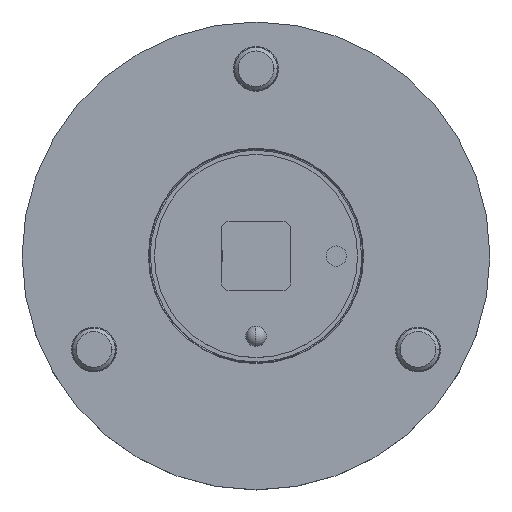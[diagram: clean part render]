
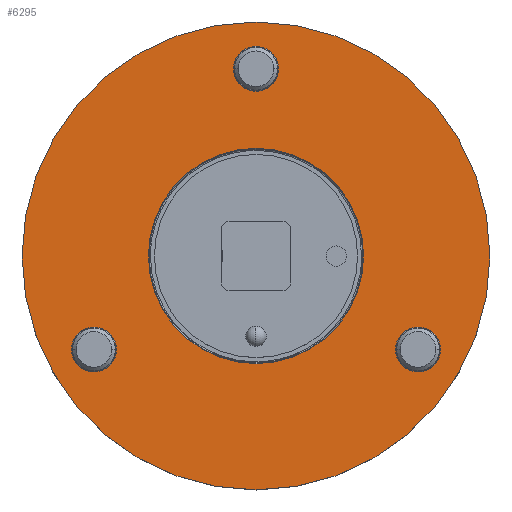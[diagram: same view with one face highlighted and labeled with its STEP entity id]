
A CAD part, top view. The second image highlights one B-rep face of the part: STEP entity #6295.
In plain terms, the highlighted planar face has unit normal (0, 0, 1).
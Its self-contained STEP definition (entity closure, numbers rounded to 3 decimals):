
#32 = CARTESIAN_POINT ( 'NONE',  ( 47.367, -15.702, 109.75 ) ) ;
#178 = AXIS2_PLACEMENT_3D ( 'NONE', #7870, #8720, #7157 ) ;
#213 = EDGE_CURVE ( 'NONE', #4894, #7926, #1616, .T. ) ;
#326 = EDGE_LOOP ( 'NONE', ( #8084, #3250 ) ) ;
#356 = CARTESIAN_POINT ( 'NONE',  ( -13.255, -15.702, 109.75 ) ) ;
#392 = AXIS2_PLACEMENT_3D ( 'NONE', #6689, #8677, #5197 ) ;
#733 = DIRECTION ( 'NONE',  ( 0., 0., -1. ) ) ;
#887 = ORIENTED_EDGE ( 'NONE', *, *, #6920, .F. ) ;
#1011 = CARTESIAN_POINT ( 'NONE',  ( 51.567, -15.702, 109.75 ) ) ;
#1145 = CARTESIAN_POINT ( 'NONE',  ( 43.167, -15.702, 109.75 ) ) ;
#1165 = FACE_BOUND ( 'NONE', #7253, .T. ) ;
#1270 = AXIS2_PLACEMENT_3D ( 'NONE', #4340, #6646, #7357 ) ;
#1410 = CARTESIAN_POINT ( 'NONE',  ( 12.856, 36.798, 109.75 ) ) ;
#1616 = CIRCLE ( 'NONE', #2383, 20.127 ) ;
#1856 = ORIENTED_EDGE ( 'NONE', *, *, #4296, .F. ) ;
#1860 = CARTESIAN_POINT ( 'NONE',  ( -17.455, -15.702, 109.75 ) ) ;
#1933 = CARTESIAN_POINT ( 'NONE',  ( 17.056, 45.548, 109.75 ) ) ;
#1975 = VERTEX_POINT ( 'NONE', #1860 ) ;
#2059 = EDGE_CURVE ( 'NONE', #7926, #4894, #6960, .T. ) ;
#2130 = ORIENTED_EDGE ( 'NONE', *, *, #6101, .T. ) ;
#2310 = AXIS2_PLACEMENT_3D ( 'NONE', #356, #8368, #4973 ) ;
#2383 = AXIS2_PLACEMENT_3D ( 'NONE', #3434, #7735, #4767 ) ;
#2391 = CARTESIAN_POINT ( 'NONE',  ( 37.183, 1.798, 109.75 ) ) ;
#2595 = CARTESIAN_POINT ( 'NONE',  ( 60.806, 1.798, 109.75 ) ) ;
#2638 = VERTEX_POINT ( 'NONE', #1410 ) ;
#2747 = CARTESIAN_POINT ( 'NONE',  ( 17.056, 1.798, 109.75 ) ) ;
#2932 = DIRECTION ( 'NONE',  ( 0., 0., -1. ) ) ;
#3047 = AXIS2_PLACEMENT_3D ( 'NONE', #2747, #3372, #5664 ) ;
#3234 = VERTEX_POINT ( 'NONE', #7924 ) ;
#3236 = CIRCLE ( 'NONE', #2310, 4.2 ) ;
#3250 = ORIENTED_EDGE ( 'NONE', *, *, #7811, .T. ) ;
#3292 = CIRCLE ( 'NONE', #6624, 4.2 ) ;
#3314 = PLANE ( 'NONE',  #3571 ) ;
#3372 = DIRECTION ( 'NONE',  ( 0., 0., -1. ) ) ;
#3434 = CARTESIAN_POINT ( 'NONE',  ( 17.056, 1.798, 109.75 ) ) ;
#3571 = AXIS2_PLACEMENT_3D ( 'NONE', #1933, #9127, #8467 ) ;
#3615 = ORIENTED_EDGE ( 'NONE', *, *, #8474, .T. ) ;
#3722 = CARTESIAN_POINT ( 'NONE',  ( -26.694, 1.798, 109.75 ) ) ;
#3752 = ORIENTED_EDGE ( 'NONE', *, *, #5429, .T. ) ;
#3774 = EDGE_LOOP ( 'NONE', ( #2130, #3752 ) ) ;
#3956 = CARTESIAN_POINT ( 'NONE',  ( 17.056, 1.798, 109.75 ) ) ;
#4189 = CIRCLE ( 'NONE', #392, 4.2 ) ;
#4234 = VERTEX_POINT ( 'NONE', #3722 ) ;
#4266 = CIRCLE ( 'NONE', #3047, 43.75 ) ;
#4296 = EDGE_CURVE ( 'NONE', #4234, #6208, #4625, .T. ) ;
#4340 = CARTESIAN_POINT ( 'NONE',  ( 17.056, 1.798, 109.75 ) ) ;
#4411 = VERTEX_POINT ( 'NONE', #1145 ) ;
#4430 = CIRCLE ( 'NONE', #6735, 4.2 ) ;
#4534 = DIRECTION ( 'NONE',  ( 0., 0., -1. ) ) ;
#4625 = CIRCLE ( 'NONE', #1270, 43.75 ) ;
#4767 = DIRECTION ( 'NONE',  ( 1., 0., 0. ) ) ;
#4894 = VERTEX_POINT ( 'NONE', #7326 ) ;
#4973 = DIRECTION ( 'NONE',  ( -1., 0., 0. ) ) ;
#5054 = EDGE_CURVE ( 'NONE', #4411, #7502, #7995, .T. ) ;
#5113 = EDGE_LOOP ( 'NONE', ( #5730, #8176 ) ) ;
#5197 = DIRECTION ( 'NONE',  ( -1., 0., 0. ) ) ;
#5339 = DIRECTION ( 'NONE',  ( 1., 0., 0. ) ) ;
#5428 = AXIS2_PLACEMENT_3D ( 'NONE', #3956, #6925, #5339 ) ;
#5429 = EDGE_CURVE ( 'NONE', #8679, #2638, #4189, .T. ) ;
#5508 = FACE_BOUND ( 'NONE', #326, .T. ) ;
#5647 = FACE_BOUND ( 'NONE', #3774, .T. ) ;
#5664 = DIRECTION ( 'NONE',  ( 1., 0., 0. ) ) ;
#5730 = ORIENTED_EDGE ( 'NONE', *, *, #2059, .F. ) ;
#5761 = CARTESIAN_POINT ( 'NONE',  ( 17.056, 36.798, 109.75 ) ) ;
#5853 = DIRECTION ( 'NONE',  ( -1., 0., 0. ) ) ;
#6101 = EDGE_CURVE ( 'NONE', #2638, #8679, #3292, .T. ) ;
#6208 = VERTEX_POINT ( 'NONE', #2595 ) ;
#6295 = ADVANCED_FACE ( 'NONE', ( #5647, #5508, #1165, #8369, #9267 ), #3314, .F. ) ;
#6624 = AXIS2_PLACEMENT_3D ( 'NONE', #5761, #733, #8752 ) ;
#6646 = DIRECTION ( 'NONE',  ( 0., 0., -1. ) ) ;
#6689 = CARTESIAN_POINT ( 'NONE',  ( 17.056, 36.798, 109.75 ) ) ;
#6735 = AXIS2_PLACEMENT_3D ( 'NONE', #7543, #4534, #6786 ) ;
#6786 = DIRECTION ( 'NONE',  ( -1., 0., 0. ) ) ;
#6920 = EDGE_CURVE ( 'NONE', #6208, #4234, #4266, .T. ) ;
#6925 = DIRECTION ( 'NONE',  ( 0., 0., 1. ) ) ;
#6960 = CIRCLE ( 'NONE', #5428, 20.127 ) ;
#7043 = CIRCLE ( 'NONE', #178, 4.2 ) ;
#7157 = DIRECTION ( 'NONE',  ( -1., 0., 0. ) ) ;
#7253 = EDGE_LOOP ( 'NONE', ( #3615, #7718 ) ) ;
#7326 = CARTESIAN_POINT ( 'NONE',  ( -3.071, 1.798, 109.75 ) ) ;
#7357 = DIRECTION ( 'NONE',  ( 1., 0., 0. ) ) ;
#7502 = VERTEX_POINT ( 'NONE', #1011 ) ;
#7543 = CARTESIAN_POINT ( 'NONE',  ( 47.367, -15.702, 109.75 ) ) ;
#7718 = ORIENTED_EDGE ( 'NONE', *, *, #8157, .T. ) ;
#7735 = DIRECTION ( 'NONE',  ( 0., 0., 1. ) ) ;
#7811 = EDGE_CURVE ( 'NONE', #7502, #4411, #4430, .T. ) ;
#7870 = CARTESIAN_POINT ( 'NONE',  ( -13.255, -15.702, 109.75 ) ) ;
#7924 = CARTESIAN_POINT ( 'NONE',  ( -9.055, -15.702, 109.75 ) ) ;
#7926 = VERTEX_POINT ( 'NONE', #2391 ) ;
#7995 = CIRCLE ( 'NONE', #8753, 4.2 ) ;
#8084 = ORIENTED_EDGE ( 'NONE', *, *, #5054, .T. ) ;
#8108 = CARTESIAN_POINT ( 'NONE',  ( 21.256, 36.798, 109.75 ) ) ;
#8157 = EDGE_CURVE ( 'NONE', #3234, #1975, #7043, .T. ) ;
#8176 = ORIENTED_EDGE ( 'NONE', *, *, #213, .F. ) ;
#8368 = DIRECTION ( 'NONE',  ( 0., 0., -1. ) ) ;
#8369 = FACE_OUTER_BOUND ( 'NONE', #9069, .T. ) ;
#8467 = DIRECTION ( 'NONE',  ( -1., 0., 0. ) ) ;
#8474 = EDGE_CURVE ( 'NONE', #1975, #3234, #3236, .T. ) ;
#8677 = DIRECTION ( 'NONE',  ( 0., 0., -1. ) ) ;
#8679 = VERTEX_POINT ( 'NONE', #8108 ) ;
#8720 = DIRECTION ( 'NONE',  ( 0., 0., -1. ) ) ;
#8752 = DIRECTION ( 'NONE',  ( -1., 0., 0. ) ) ;
#8753 = AXIS2_PLACEMENT_3D ( 'NONE', #32, #2932, #5853 ) ;
#9069 = EDGE_LOOP ( 'NONE', ( #887, #1856 ) ) ;
#9127 = DIRECTION ( 'NONE',  ( 0., 0., -1. ) ) ;
#9267 = FACE_BOUND ( 'NONE', #5113, .T. ) ;
